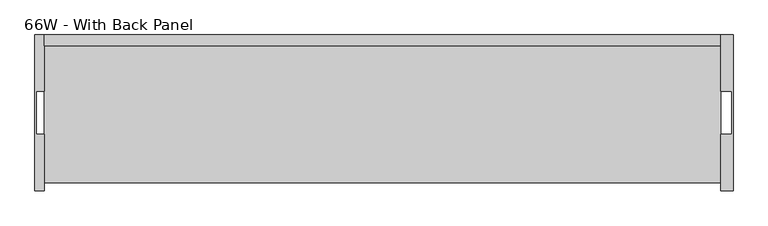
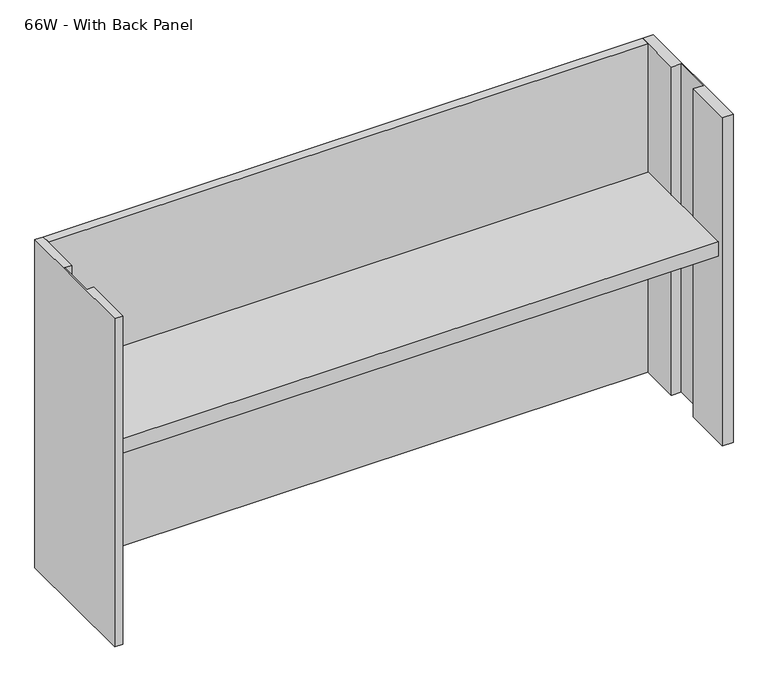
"""IFC4 building model written with IfcOpenShell, lengths in millimetres: furniture geometry, Steelcase - Kick Freestanding - Overhead Storage Cabinet With Shelves : 66W - With Back Panel."""

from ifc_helpers import new_model, si_unit, frame, origin, place, context, project, spatial, polyline, outline, extrude, source, transform, mapped, element, save


def furniture_66w_with_back_panel_e202b7cd(model_context):
    return source(origin(), model_context, "Body", "SweptSolid", [
        extrude(outline(polyline([(1634.9138992, -53.9750008), (1634.9138992, -377.8257956), (34.7138992, -377.8257956), (34.7138992, -53.9750008), (1634.9138992, -53.9750008)])), frame((0.0, 0.0, 1018.9431215), z_axis=(0.0, 0.0, 1.0), x_axis=(1.0, 0.0, 0.0)), (0.0, 0.0, 1.0), 41.2749516),
        extrude(outline(polyline([(1634.9138992, -28.575), (1663.7, -28.575), (1663.7, -396.875), (1634.9138992, -396.875), (1634.9138992, -263.5265924), (1660.523793, -263.5265924), (1660.523793, -161.9265984), (1634.9138992, -161.9265984), (1634.9138992, -28.575)])), frame((0.0, 0.0, 495.068073), z_axis=(0.0, 0.0, 1.0), x_axis=(1.0, 0.0, 0.0)), (0.0, 0.0, 1.0), 927.1),
        extrude(outline(polyline([(1634.9138992, -53.9750008), (34.7138992, -53.9750008), (34.7138992, -28.575), (1634.9138992, -28.575), (1634.9138992, -53.9750008)])), frame((0.0, 0.0, 495.068073), z_axis=(0.0, 0.0, 1.0), x_axis=(1.0, 0.0, 0.0)), (0.0, 0.0, 1.0), 927.1),
        extrude(outline(polyline([(34.7138992, -28.575), (34.7138992, -161.9250023), (15.8750004, -161.9250023), (15.8750004, -263.5249962), (34.7138992, -263.5249962), (34.7138992, -396.875), (12.7, -396.875), (12.7, -28.575), (34.7138992, -28.575)])), frame((0.0, 0.0, 495.068073), z_axis=(0.0, 0.0, 1.0), x_axis=(1.0, 0.0, 0.0)), (0.0, 0.0, 1.0), 927.1),
    ])


if __name__ == "__main__":
    model = new_model("IFC4")
    model_context = context("Model", 3, world=origin())
    ifc_project = project(units=[si_unit("LENGTHUNIT", "METRE", prefix="MILLI")], contexts=[model_context])
    site = spatial("IfcSite", under=ifc_project)
    building = spatial("IfcBuilding", under=site)
    placement = place(None, origin())
    furniture_66w_with_back_panel_shape = furniture_66w_with_back_panel_e202b7cd(model_context)
    element("IfcFurniture", 1, ObjectType="Steelcase - Kick Freestanding - Overhead Storage Cabinet With Shelves : 66W - With Back Panel", at=placement, inside=building, context=model_context, shape_type="MappedRepresentation", body=[
        mapped(furniture_66w_with_back_panel_shape, transform((0.0, 0.0, 0.0), x_axis=(1.0, 0.0, 0.0), y_axis=(0.0, 1.0, 0.0), z_axis=(0.0, 0.0, 1.0))),
    ])
    save(model, "model.ifc")
